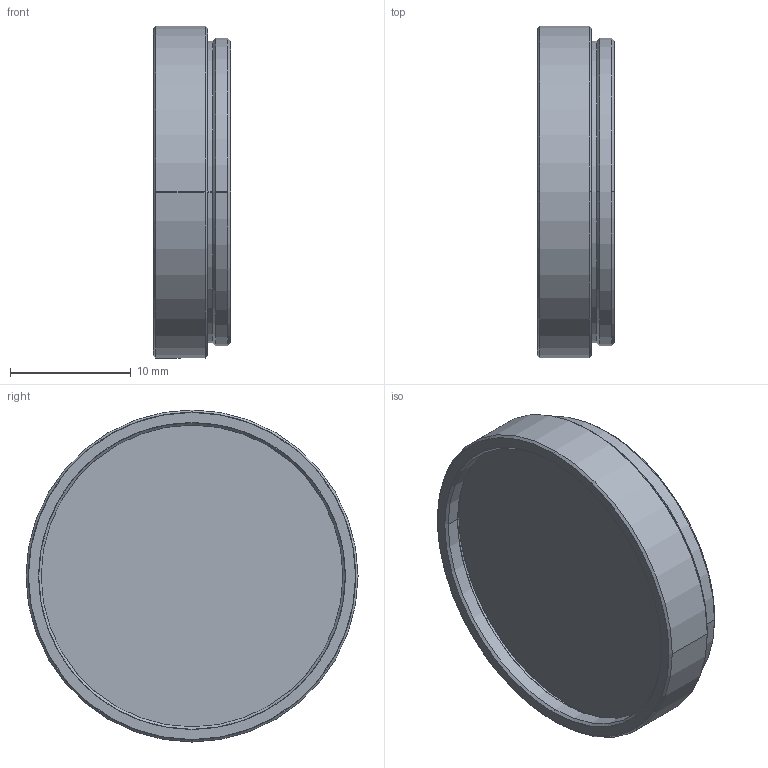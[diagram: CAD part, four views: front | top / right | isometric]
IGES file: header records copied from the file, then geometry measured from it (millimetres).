
Start section: SolidWorks IGES file using analytic representation for surfaces
Bounding box: 6.4 x 27.5 x 27.5 mm (x, y, z)
Surface area: 1888.6 mm2 (no closed solid volume)
Topology: 0 solids, 0 shells, 25 faces, 360 edges, 360 vertices
Faces by surface type: revolution 20, bspline 5
